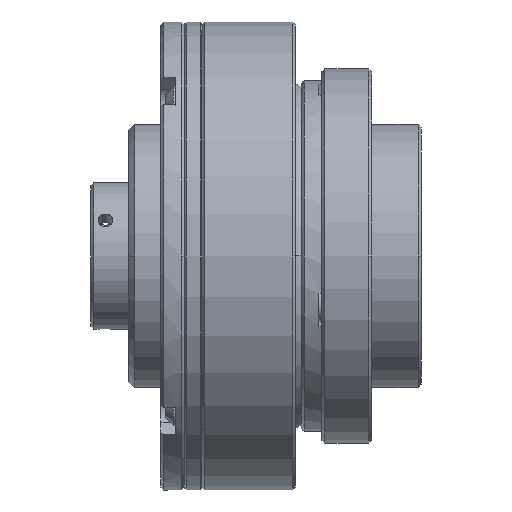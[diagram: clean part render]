
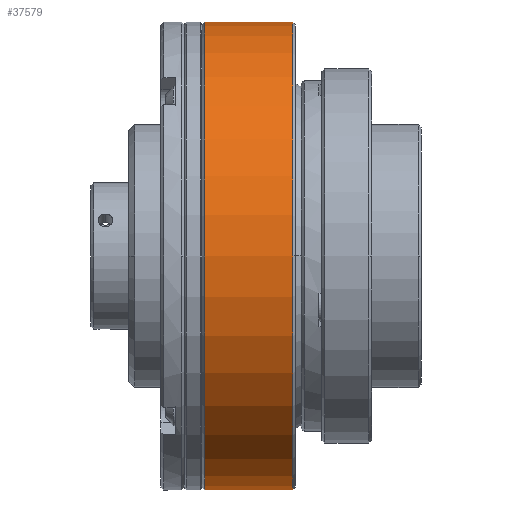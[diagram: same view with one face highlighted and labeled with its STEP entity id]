
A CAD part, front view. The second image highlights one B-rep face of the part: STEP entity #37579.
In plain terms, the highlighted cylindrical face has radius 40 mm (diameter 80 mm), a partial arc.
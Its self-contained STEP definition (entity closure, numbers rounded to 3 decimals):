
#965 = EDGE_CURVE ( 'NONE', #50846, #35848, #33899, .T. ) ;
#5647 = AXIS2_PLACEMENT_3D ( 'NONE', #28377, #129099, #7665 ) ;
#7118 = CARTESIAN_POINT ( 'NONE',  ( -44.6, 11.94, -40. ) ) ;
#7665 = DIRECTION ( 'NONE',  ( 0., 0., 1. ) ) ;
#8905 = VERTEX_POINT ( 'NONE', #52796 ) ;
#9588 = LINE ( 'NONE', #7118, #93038 ) ;
#15460 = ORIENTED_EDGE ( 'NONE', *, *, #93181, .F. ) ;
#15657 = DIRECTION ( 'NONE',  ( 0., 0., 1. ) ) ;
#15979 = CARTESIAN_POINT ( 'NONE',  ( -44.6, 11.94, 0. ) ) ;
#17035 = CIRCLE ( 'NONE', #5647, 40. ) ;
#17771 = DIRECTION ( 'NONE',  ( -1., 0., 0. ) ) ;
#20168 = FACE_OUTER_BOUND ( 'NONE', #55208, .T. ) ;
#21674 = CYLINDRICAL_SURFACE ( 'NONE', #100183, 40. ) ;
#26969 = DIRECTION ( 'NONE',  ( 0., 0., 1. ) ) ;
#27501 = CARTESIAN_POINT ( 'NONE',  ( -29.1, 11.94, 0. ) ) ;
#28377 = CARTESIAN_POINT ( 'NONE',  ( -29.1, 11.94, 0. ) ) ;
#29598 = CARTESIAN_POINT ( 'NONE',  ( -44.1, 11.94, -40. ) ) ;
#33899 = CIRCLE ( 'NONE', #92083, 40. ) ;
#35848 = VERTEX_POINT ( 'NONE', #29598 ) ;
#36875 = EDGE_CURVE ( 'NONE', #8905, #105653, #84820, .T. ) ;
#36935 = LINE ( 'NONE', #126497, #63723 ) ;
#37579 = ADVANCED_FACE ( 'NONE', ( #20168 ), #21674, .T. ) ;
#39431 = CARTESIAN_POINT ( 'NONE',  ( -44.1, 11.94, 0. ) ) ;
#41082 = CARTESIAN_POINT ( 'NONE',  ( -29.1, 11.94, 40. ) ) ;
#46347 = DIRECTION ( 'NONE',  ( -1., 0., 0. ) ) ;
#46993 = ORIENTED_EDGE ( 'NONE', *, *, #59178, .T. ) ;
#50846 = VERTEX_POINT ( 'NONE', #109896 ) ;
#51168 = ORIENTED_EDGE ( 'NONE', *, *, #75333, .F. ) ;
#52796 = CARTESIAN_POINT ( 'NONE',  ( -29.1, -28.06, 0. ) ) ;
#55208 = EDGE_LOOP ( 'NONE', ( #51168, #86852, #15460, #46993, #61222 ) ) ;
#59178 = EDGE_CURVE ( 'NONE', #105938, #50846, #36935, .T. ) ;
#61222 = ORIENTED_EDGE ( 'NONE', *, *, #965, .T. ) ;
#63723 = VECTOR ( 'NONE', #17771, 1000. ) ;
#67500 = DIRECTION ( 'NONE',  ( 1., 0., 0. ) ) ;
#75333 = EDGE_CURVE ( 'NONE', #105653, #35848, #9588, .T. ) ;
#80755 = DIRECTION ( 'NONE',  ( 0., 0., 1. ) ) ;
#82446 = AXIS2_PLACEMENT_3D ( 'NONE', #27501, #67500, #15657 ) ;
#84820 = CIRCLE ( 'NONE', #82446, 40. ) ;
#86852 = ORIENTED_EDGE ( 'NONE', *, *, #36875, .F. ) ;
#90007 = DIRECTION ( 'NONE',  ( 1., 0., 0. ) ) ;
#92083 = AXIS2_PLACEMENT_3D ( 'NONE', #39431, #90007, #80755 ) ;
#93038 = VECTOR ( 'NONE', #117546, 1000. ) ;
#93181 = EDGE_CURVE ( 'NONE', #105938, #8905, #17035, .T. ) ;
#100183 = AXIS2_PLACEMENT_3D ( 'NONE', #15979, #46347, #26969 ) ;
#105653 = VERTEX_POINT ( 'NONE', #125649 ) ;
#105938 = VERTEX_POINT ( 'NONE', #41082 ) ;
#109896 = CARTESIAN_POINT ( 'NONE',  ( -44.1, 11.94, 40. ) ) ;
#117546 = DIRECTION ( 'NONE',  ( -1., 0., 0. ) ) ;
#125649 = CARTESIAN_POINT ( 'NONE',  ( -29.1, 11.94, -40. ) ) ;
#126497 = CARTESIAN_POINT ( 'NONE',  ( -44.6, 11.94, 40. ) ) ;
#129099 = DIRECTION ( 'NONE',  ( 1., 0., 0. ) ) ;
